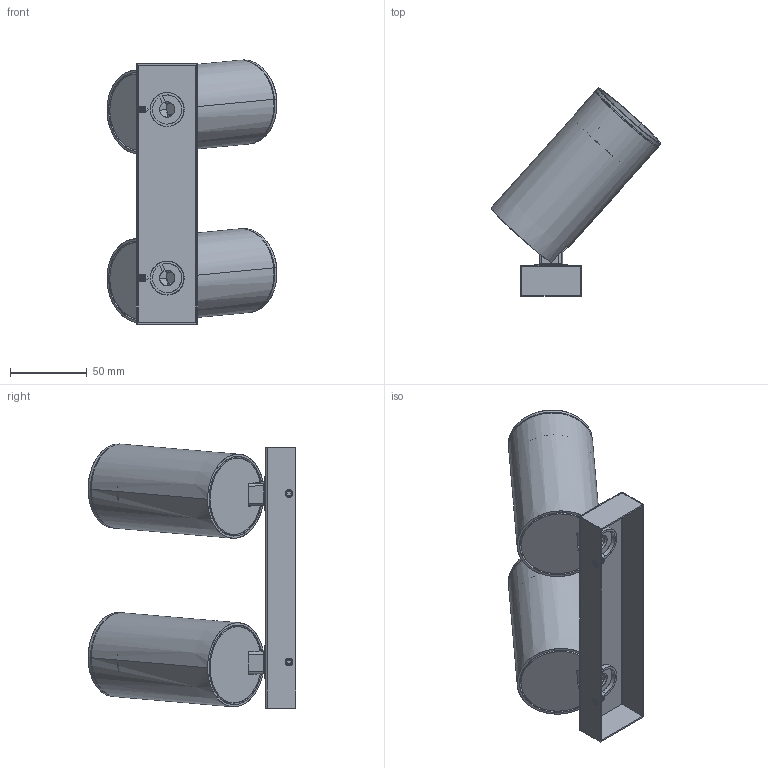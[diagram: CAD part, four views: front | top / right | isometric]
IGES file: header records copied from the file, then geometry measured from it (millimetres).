
Start section: SolidWorks IGES file using analytic representation for surfaces
Global section: file name: Z:\Modele 3D_WWW\_KOLEKCJE_WWW\MONO\MONO-BELKA\MONO-II-GOLD-7766-7774\MONO-II-GOLD-7766-7774.IGS; native system: SolidWorks 2021; preprocessor: SolidWorks 2021; author: gabriela.tworek; date: 210722.113850; units: millimetre
Bounding box: 110.94 x 135.64 x 172.33 mm (x, y, z)
Surface area: 146640.1 mm2 (no closed solid volume)
Topology: 0 solids, 0 shells, 540 faces, 7736 edges, 7732 vertices
Faces by surface type: revolution 344, bspline 196
